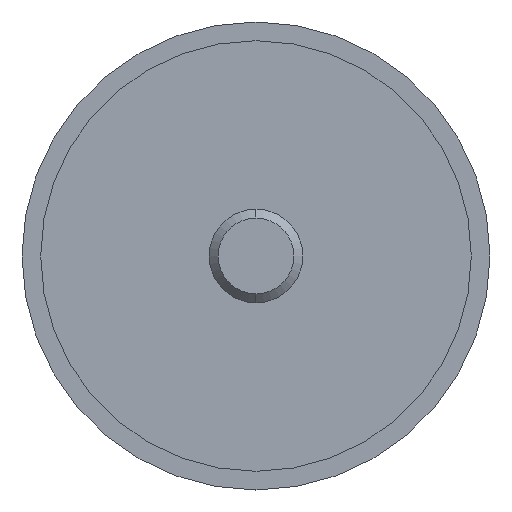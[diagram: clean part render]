
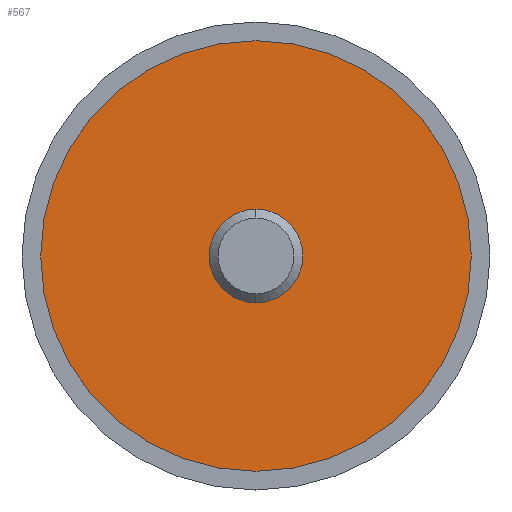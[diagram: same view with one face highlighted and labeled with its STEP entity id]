
A CAD part, left-side view. The second image highlights one B-rep face of the part: STEP entity #567.
In plain terms, the highlighted planar face has unit normal (-1, 0, 0).
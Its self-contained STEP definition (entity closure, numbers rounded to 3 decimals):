
#24 = DIRECTION ( 'NONE',  ( 0., 0., -1. ) ) ;
#28 = AXIS2_PLACEMENT_3D ( 'NONE', #200, #517, #267 ) ;
#68 = DIRECTION ( 'NONE',  ( -1., 0., 0. ) ) ;
#69 = EDGE_CURVE ( 'NONE', #565, #412, #555, .T. ) ;
#114 = CARTESIAN_POINT ( 'NONE',  ( -19.99, 0., 0. ) ) ;
#119 = EDGE_LOOP ( 'NONE', ( #421, #281 ) ) ;
#128 = ORIENTED_EDGE ( 'NONE', *, *, #69, .F. ) ;
#133 = DIRECTION ( 'NONE',  ( 0., 0., -1. ) ) ;
#134 = CARTESIAN_POINT ( 'NONE',  ( -19.99, 0., 23. ) ) ;
#157 = AXIS2_PLACEMENT_3D ( 'NONE', #206, #203, #248 ) ;
#175 = AXIS2_PLACEMENT_3D ( 'NONE', #220, #483, #24 ) ;
#182 = CARTESIAN_POINT ( 'NONE',  ( -19.99, 0., -5. ) ) ;
#200 = CARTESIAN_POINT ( 'NONE',  ( -19.99, 0., 0. ) ) ;
#203 = DIRECTION ( 'NONE',  ( -1., 0., 0. ) ) ;
#206 = CARTESIAN_POINT ( 'NONE',  ( -19.99, 0., 0. ) ) ;
#217 = EDGE_LOOP ( 'NONE', ( #472, #128 ) ) ;
#220 = CARTESIAN_POINT ( 'NONE',  ( -19.99, 0., 0. ) ) ;
#240 = FACE_BOUND ( 'NONE', #217, .T. ) ;
#248 = DIRECTION ( 'NONE',  ( 0., 0., 1. ) ) ;
#267 = DIRECTION ( 'NONE',  ( 0., 0., 1. ) ) ;
#281 = ORIENTED_EDGE ( 'NONE', *, *, #649, .T. ) ;
#293 = DIRECTION ( 'NONE',  ( 1., 0., 0. ) ) ;
#327 = DIRECTION ( 'NONE',  ( 0., 0., -1. ) ) ;
#328 = EDGE_CURVE ( 'NONE', #617, #606, #339, .T. ) ;
#339 = CIRCLE ( 'NONE', #157, 23. ) ;
#394 = EDGE_CURVE ( 'NONE', #412, #565, #640, .T. ) ;
#412 = VERTEX_POINT ( 'NONE', #526 ) ;
#421 = ORIENTED_EDGE ( 'NONE', *, *, #328, .T. ) ;
#438 = AXIS2_PLACEMENT_3D ( 'NONE', #492, #293, #133 ) ;
#472 = ORIENTED_EDGE ( 'NONE', *, *, #394, .F. ) ;
#483 = DIRECTION ( 'NONE',  ( -1., 0., 0. ) ) ;
#492 = CARTESIAN_POINT ( 'NONE',  ( -19.99, 23., 0. ) ) ;
#501 = AXIS2_PLACEMENT_3D ( 'NONE', #114, #68, #327 ) ;
#504 = FACE_OUTER_BOUND ( 'NONE', #119, .T. ) ;
#517 = DIRECTION ( 'NONE',  ( -1., 0., 0. ) ) ;
#526 = CARTESIAN_POINT ( 'NONE',  ( -19.99, 0., 5. ) ) ;
#555 = CIRCLE ( 'NONE', #175, 5. ) ;
#565 = VERTEX_POINT ( 'NONE', #182 ) ;
#567 = ADVANCED_FACE ( 'NONE', ( #504, #240 ), #665, .F. ) ;
#585 = CIRCLE ( 'NONE', #28, 23. ) ;
#606 = VERTEX_POINT ( 'NONE', #651 ) ;
#617 = VERTEX_POINT ( 'NONE', #134 ) ;
#640 = CIRCLE ( 'NONE', #501, 5. ) ;
#649 = EDGE_CURVE ( 'NONE', #606, #617, #585, .T. ) ;
#651 = CARTESIAN_POINT ( 'NONE',  ( -19.99, 0., -23. ) ) ;
#665 = PLANE ( 'NONE',  #438 ) ;
